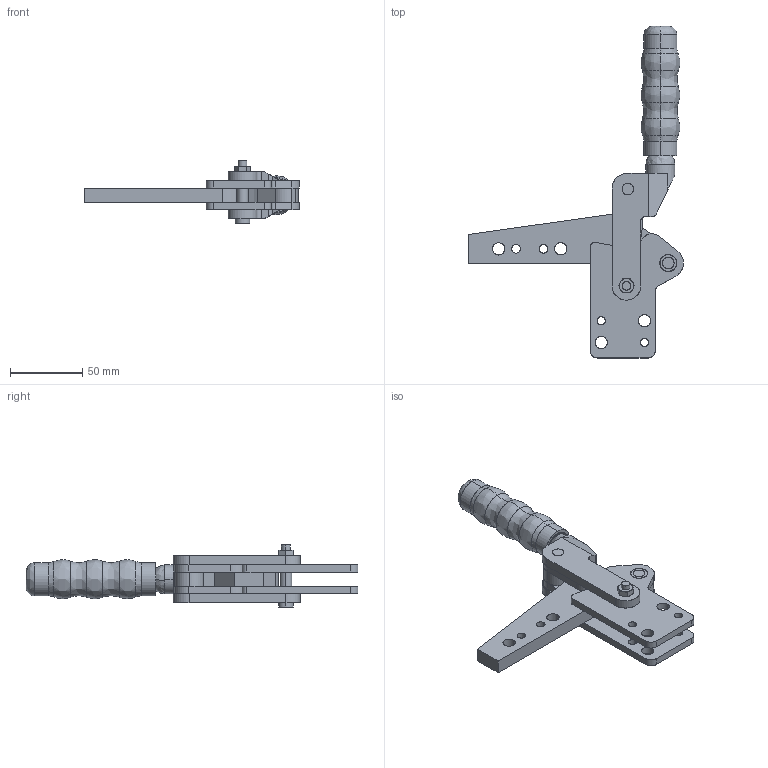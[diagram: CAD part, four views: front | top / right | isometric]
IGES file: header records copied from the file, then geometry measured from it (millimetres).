
Start section: SolidWorks IGES file using analytic representation for surfaces
Global section: file name: X:\Solidworks\Download\VA700TV\IGES\VA700TV.IGS; native system: SolidWorks 2016; preprocessor: SolidWorks 2016; author: AndyW; date: 170512.113438; units: millimetre
Bounding box: 148.89 x 230 x 43 mm (x, y, z)
Surface area: 74450.1 mm2 (no closed solid volume)
Topology: 0 solids, 0 shells, 247 faces, 4811 edges, 4809 vertices
Faces by surface type: revolution 142, bspline 105
